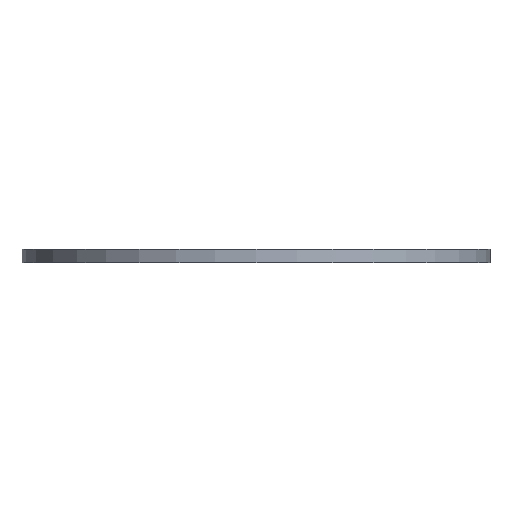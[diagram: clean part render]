
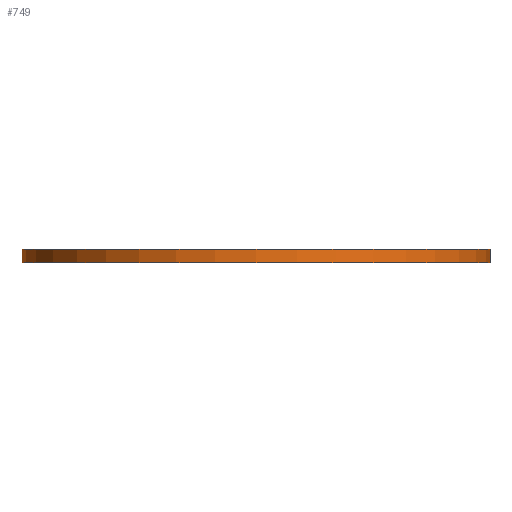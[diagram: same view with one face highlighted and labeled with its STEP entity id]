
A CAD part, front view. The second image highlights one B-rep face of the part: STEP entity #749.
In plain terms, the highlighted cylindrical face has radius 437.5 mm (diameter 875 mm), a full revolution.
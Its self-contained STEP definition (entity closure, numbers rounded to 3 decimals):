
#92=FACE_OUTER_BOUND('',#120,.T.);
#120=EDGE_LOOP('',(#613,#614,#615,#616,#617,#618));
#198=LINE('',#1328,#224);
#224=VECTOR('',#1112,437.5);
#300=CIRCLE('',#873,437.5);
#301=CIRCLE('',#874,437.5);
#302=CIRCLE('',#875,437.5);
#303=CIRCLE('',#876,437.5);
#379=VERTEX_POINT('',#1323);
#380=VERTEX_POINT('',#1324);
#381=VERTEX_POINT('',#1327);
#382=VERTEX_POINT('',#1329);
#483=EDGE_CURVE('',#379,#380,#300,.T.);
#484=EDGE_CURVE('',#380,#379,#301,.T.);
#485=EDGE_CURVE('',#380,#381,#198,.T.);
#486=EDGE_CURVE('',#381,#382,#302,.T.);
#487=EDGE_CURVE('',#382,#381,#303,.T.);
#613=ORIENTED_EDGE('',*,*,#483,.F.);
#614=ORIENTED_EDGE('',*,*,#484,.F.);
#615=ORIENTED_EDGE('',*,*,#485,.T.);
#616=ORIENTED_EDGE('',*,*,#486,.T.);
#617=ORIENTED_EDGE('',*,*,#487,.T.);
#618=ORIENTED_EDGE('',*,*,#485,.F.);
#723=CYLINDRICAL_SURFACE('',#872,437.5);
#749=ADVANCED_FACE('',(#92),#723,.T.);
#872=AXIS2_PLACEMENT_3D('',#1322,#1106,#1107);
#873=AXIS2_PLACEMENT_3D('',#1325,#1108,#1109);
#874=AXIS2_PLACEMENT_3D('',#1326,#1110,#1111);
#875=AXIS2_PLACEMENT_3D('',#1330,#1113,#1114);
#876=AXIS2_PLACEMENT_3D('',#1331,#1115,#1116);
#1106=DIRECTION('center_axis',(0.,0.,1.));
#1107=DIRECTION('ref_axis',(1.,0.,0.));
#1108=DIRECTION('center_axis',(0.,0.,1.));
#1109=DIRECTION('ref_axis',(1.,0.,0.));
#1110=DIRECTION('center_axis',(0.,0.,1.));
#1111=DIRECTION('ref_axis',(1.,0.,0.));
#1112=DIRECTION('',(0.,0.,-1.));
#1113=DIRECTION('center_axis',(0.,0.,1.));
#1114=DIRECTION('ref_axis',(1.,0.,0.));
#1115=DIRECTION('center_axis',(0.,0.,1.));
#1116=DIRECTION('ref_axis',(1.,0.,0.));
#1322=CARTESIAN_POINT('Origin',(0.,0.,0.));
#1323=CARTESIAN_POINT('',(437.5,0.,26.));
#1324=CARTESIAN_POINT('',(-437.5,0.,26.));
#1325=CARTESIAN_POINT('Origin',(0.,0.,26.));
#1326=CARTESIAN_POINT('Origin',(0.,0.,26.));
#1327=CARTESIAN_POINT('',(-437.5,0.,0.));
#1328=CARTESIAN_POINT('',(-437.5,0.,0.));
#1329=CARTESIAN_POINT('',(437.5,0.,0.));
#1330=CARTESIAN_POINT('Origin',(0.,0.,0.));
#1331=CARTESIAN_POINT('Origin',(0.,0.,0.));
